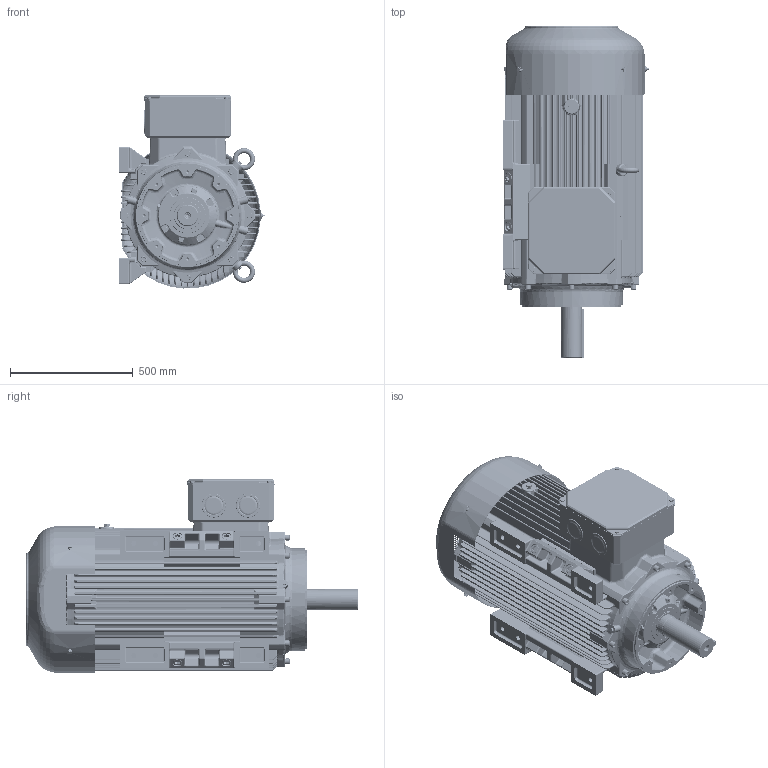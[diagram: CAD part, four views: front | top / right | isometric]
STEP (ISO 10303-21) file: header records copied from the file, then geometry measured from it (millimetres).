
FILE_DESCRIPTION(/* description */ ('Unknown','CAx-IF Rec.Pracs.---Representation and Presentation of Product Manufacturing Information (PMI)---4.0---2014-10-13','CAx-IF Rec.Pracs.---3D Tessellated Geometry---0.4---2014-09-14','2;1'),/* implementation_level */ '2;1');
FILE_NAME(/* name */ 'Silnik SIE447TCL4B',/* time_stamp */ '2024-07-08T09:54:14+02:00',/* author */ ('Unknown'),/* organization */ ('Unknown'),/* preprocessor_version */ 'ST-DEVELOPER v16.7',/* originating_system */ 'DEX',/* authorisation */ $);
FILE_SCHEMA (('AP242_MANAGED_MODEL_BASED_3D_ENGINEERING_MIM_LF { 1 0 10303 442 20130219 1 4 }'));
Products named in the file (1): Silnik SIE447TCL4B
Bounding box: 594.91 x 1353.96 x 787.55 mm (x, y, z)
Volume: 183814117.2 mm3; surface area: 12684753.3 mm2
Topology: 2 solids, 55 shells, 12050 faces, 31115 edges, 19136 vertices
Faces by surface type: plane 5933, cylinder 2957, bspline 1640, torus 802, cone 406, sphere 312
Full cylindrical faces by diameter (mm): 0.25 x1, 1.6 x2, 2.5 x3, 3 x1, 3.5 x4, 4.917 x2, 5 x9, 6 x3, 6.2 x14, 6.466 x8, 6.647 x12, 8 x22, 8.376 x6, 8.4 x1, 8.8 x1, 8.917 x4, 9 x12, 9.853 x4, 10 x12, 10.106 x12, 10.5 x4, 12 x12, 13 x8, 13.376 x8, 13.546 x8, 13.835 x10, 14 x14, 14.63 x4, 16 x20, 16.63 x8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
Entity records: 498910 total; most frequent: CARTESIAN_POINT 134248, ORIENTED_EDGE 59212, DIRECTION 55001, EDGE_CURVE 29606, AXIS2_PLACEMENT_3D 18767, VERTEX_POINT 18704, LINE 17467, VECTOR 17467
